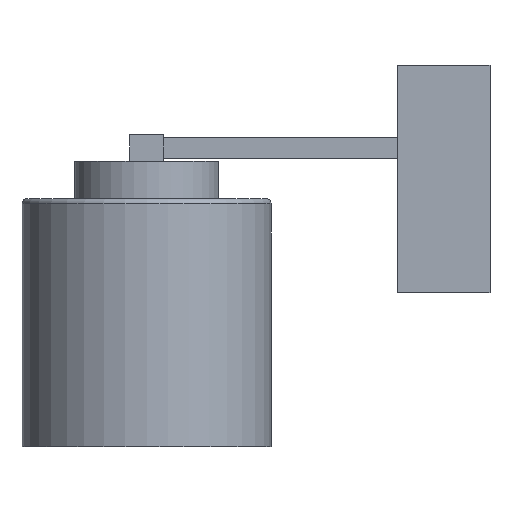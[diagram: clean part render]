
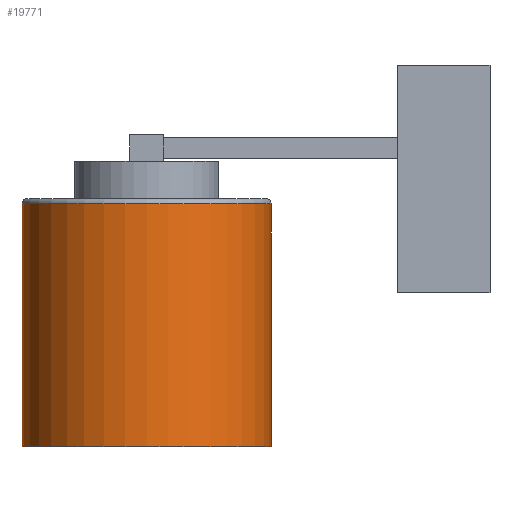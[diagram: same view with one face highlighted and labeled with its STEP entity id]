
A CAD part, left-side view. The second image highlights one B-rep face of the part: STEP entity #19771.
In plain terms, the highlighted cylindrical face has radius 47.401 mm (diameter 94.802 mm), a full revolution.
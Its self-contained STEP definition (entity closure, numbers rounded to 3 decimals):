
#19771 = ADVANCED_FACE('',(#19772),#19786,.T.);
#19772 = FACE_BOUND('',#19773,.F.);
#19773 = EDGE_LOOP('',(#19774,#19804,#19831,#19832));
#19774 = ORIENTED_EDGE('',*,*,#19775,.T.);
#19775 = EDGE_CURVE('',#19776,#19778,#19780,.T.);
#19776 = VERTEX_POINT('',#19777);
#19777 = CARTESIAN_POINT('',(-119.698,130.599,0.));
#19778 = VERTEX_POINT('',#19779);
#19779 = CARTESIAN_POINT('',(-119.698,130.599,
    92.309));
#19780 = SEAM_CURVE('',#19781,(#19785,#19797),.PCURVE_S1.);
#19781 = LINE('',#19782,#19783);
#19782 = CARTESIAN_POINT('',(-119.698,130.599,0.));
#19783 = VECTOR('',#19784,1.);
#19784 = DIRECTION('',(0.,0.,1.));
#19785 = PCURVE('',#19786,#19791);
#19786 = CYLINDRICAL_SURFACE('',#19787,47.401);
#19787 = AXIS2_PLACEMENT_3D('',#19788,#19789,#19790);
#19788 = CARTESIAN_POINT('',(-167.099,130.599,0.));
#19789 = DIRECTION('',(-0.,-0.,-1.));
#19790 = DIRECTION('',(1.,0.,0.));
#19791 = DEFINITIONAL_REPRESENTATION('',(#19792),#19796);
#19792 = LINE('',#19793,#19794);
#19793 = CARTESIAN_POINT('',(-0.,0.));
#19794 = VECTOR('',#19795,1.);
#19795 = DIRECTION('',(-0.,-1.));
#19796 = ( GEOMETRIC_REPRESENTATION_CONTEXT(2) 
PARAMETRIC_REPRESENTATION_CONTEXT() REPRESENTATION_CONTEXT('2D SPACE',''
  ) );
#19797 = PCURVE('',#19786,#19798);
#19798 = DEFINITIONAL_REPRESENTATION('',(#19799),#19803);
#19799 = LINE('',#19800,#19801);
#19800 = CARTESIAN_POINT('',(-6.283,0.));
#19801 = VECTOR('',#19802,1.);
#19802 = DIRECTION('',(-0.,-1.));
#19803 = ( GEOMETRIC_REPRESENTATION_CONTEXT(2) 
PARAMETRIC_REPRESENTATION_CONTEXT() REPRESENTATION_CONTEXT('2D SPACE',''
  ) );
#19804 = ORIENTED_EDGE('',*,*,#19805,.T.);
#19805 = EDGE_CURVE('',#19778,#19778,#19806,.T.);
#19806 = SURFACE_CURVE('',#19807,(#19812,#19819),.PCURVE_S1.);
#19807 = CIRCLE('',#19808,47.401);
#19808 = AXIS2_PLACEMENT_3D('',#19809,#19810,#19811);
#19809 = CARTESIAN_POINT('',(-167.099,130.599,
    92.309));
#19810 = DIRECTION('',(0.,0.,1.));
#19811 = DIRECTION('',(1.,0.,-0.));
#19812 = PCURVE('',#19786,#19813);
#19813 = DEFINITIONAL_REPRESENTATION('',(#19814),#19818);
#19814 = LINE('',#19815,#19816);
#19815 = CARTESIAN_POINT('',(-0.,-92.309));
#19816 = VECTOR('',#19817,1.);
#19817 = DIRECTION('',(-1.,0.));
#19818 = ( GEOMETRIC_REPRESENTATION_CONTEXT(2) 
PARAMETRIC_REPRESENTATION_CONTEXT() REPRESENTATION_CONTEXT('2D SPACE',''
  ) );
#19819 = PCURVE('',#19820,#19825);
#19820 = TOROIDAL_SURFACE('',#19821,45.401,2.);
#19821 = AXIS2_PLACEMENT_3D('',#19822,#19823,#19824);
#19822 = CARTESIAN_POINT('',(-167.099,130.599,
    92.309));
#19823 = DIRECTION('',(0.,0.,1.));
#19824 = DIRECTION('',(1.,0.,-0.));
#19825 = DEFINITIONAL_REPRESENTATION('',(#19826),#19830);
#19826 = LINE('',#19827,#19828);
#19827 = CARTESIAN_POINT('',(0.,0.));
#19828 = VECTOR('',#19829,1.);
#19829 = DIRECTION('',(1.,0.));
#19830 = ( GEOMETRIC_REPRESENTATION_CONTEXT(2) 
PARAMETRIC_REPRESENTATION_CONTEXT() REPRESENTATION_CONTEXT('2D SPACE',''
  ) );
#19831 = ORIENTED_EDGE('',*,*,#19775,.F.);
#19832 = ORIENTED_EDGE('',*,*,#19833,.F.);
#19833 = EDGE_CURVE('',#19776,#19776,#19834,.T.);
#19834 = SURFACE_CURVE('',#19835,(#19840,#19847),.PCURVE_S1.);
#19835 = CIRCLE('',#19836,47.401);
#19836 = AXIS2_PLACEMENT_3D('',#19837,#19838,#19839);
#19837 = CARTESIAN_POINT('',(-167.099,130.599,0.));
#19838 = DIRECTION('',(0.,0.,1.));
#19839 = DIRECTION('',(1.,0.,0.));
#19840 = PCURVE('',#19786,#19841);
#19841 = DEFINITIONAL_REPRESENTATION('',(#19842),#19846);
#19842 = LINE('',#19843,#19844);
#19843 = CARTESIAN_POINT('',(-0.,0.));
#19844 = VECTOR('',#19845,1.);
#19845 = DIRECTION('',(-1.,0.));
#19846 = ( GEOMETRIC_REPRESENTATION_CONTEXT(2) 
PARAMETRIC_REPRESENTATION_CONTEXT() REPRESENTATION_CONTEXT('2D SPACE',''
  ) );
#19847 = PCURVE('',#19848,#19853);
#19848 = PLANE('',#19849);
#19849 = AXIS2_PLACEMENT_3D('',#19850,#19851,#19852);
#19850 = CARTESIAN_POINT('',(-167.099,130.599,0.));
#19851 = DIRECTION('',(0.,0.,1.));
#19852 = DIRECTION('',(1.,0.,-0.));
#19853 = DEFINITIONAL_REPRESENTATION('',(#19854),#19858);
#19854 = CIRCLE('',#19855,47.401);
#19855 = AXIS2_PLACEMENT_2D('',#19856,#19857);
#19856 = CARTESIAN_POINT('',(0.,0.));
#19857 = DIRECTION('',(1.,0.));
#19858 = ( GEOMETRIC_REPRESENTATION_CONTEXT(2) 
PARAMETRIC_REPRESENTATION_CONTEXT() REPRESENTATION_CONTEXT('2D SPACE',''
  ) );
